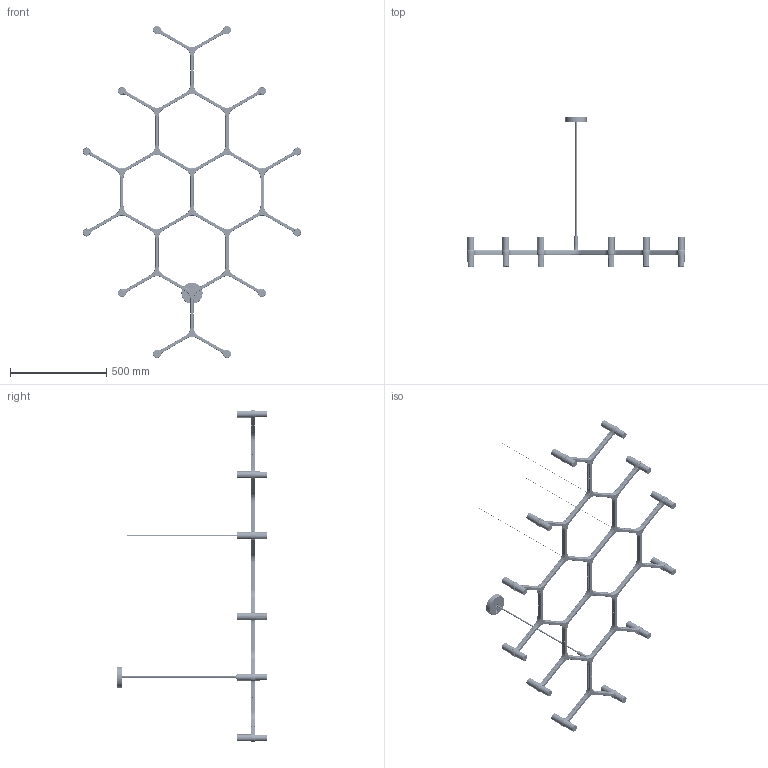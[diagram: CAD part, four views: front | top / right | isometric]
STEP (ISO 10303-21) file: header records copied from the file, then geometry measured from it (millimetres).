
FILE_DESCRIPTION (( 'STEP AP214' ), '1' );
FILE_NAME ('CROWN PLANA MEGA.STEP', '2014-04-15T15:58:36', ( 'winner' ), ( '' ), 'SwSTEP 2.0', 'SolidWorks 2012', '' );
FILE_SCHEMA (( 'AUTOMOTIVE_DESIGN' ));
Length unit declared in the file: millimetre
Products named in the file (23): 052COM700110; trittico 2 luce; cavo acciaio; red cable; CROCE-SUP-COLONNA_ASM; 051CRO700900_ASM; BARRA_CORTA_M12X1; COLONNA; 051CRO700400; TERMINALE_ASM; 061CRO701200; 51G9-L18; 051CRO701200; 051CRO700600; 051CRO700800; 051CRO700500; CROCE-SUP-VITI_ASM; 051CRO700300; 051CRO701100; 051CRO700100; DADO_M12X1; RONDELLA-M12; CROWN PLANA MEGA
Assembly tree (92 placements, depth 4):
  CROWN PLANA MEGA
    RONDELLA-M12
    DADO_M12X1
    051CRO700100  x17
    051CRO701100  x19
    CROCE-SUP-VITI_ASM  x14
      051CRO700300
    TERMINALE_ASM  x11
      051CRO700500
      051CRO700800
      051CRO700600
      051CRO701200
      51G9-L18
      061CRO701200
    CROCE-SUP-COLONNA_ASM
      051CRO700400
      RONDELLA-M12
      DADO_M12X1
      051CRO700900_ASM
        COLONNA
        BARRA_CORTA_M12X1
    red cable
    cavo acciaio  x3
    trittico 2 luce
      CROCE-SUP-VITI_ASM
        051CRO700300
      051CRO700100
      051CRO701100  x3
      TERMINALE_ASM  x2
        051CRO700500
        051CRO700800
        051CRO700600
        051CRO701200
        51G9-L18
        061CRO701200
    051CRO700300  x2
    052COM700110
Bounding box: 1133.19 x 777.5 x 1722 mm (x, y, z)
Volume: 776068.3 mm3; surface area: 1841619.6 mm2
Topology: 68 solids, 330 shells, 30346 faces, 81824 edges, 53382 vertices
Faces by surface type: plane 18523, cylinder 5357, bspline 4415, cone 1857, torus 194
Entity records: 91322 total; most frequent: CARTESIAN_POINT 29783, ORIENTED_EDGE 13076, DIRECTION 11746, EDGE_CURVE 6574, VECTOR 4722, LINE 4722, VERTEX_POINT 4294, AXIS2_PLACEMENT_3D 3512
